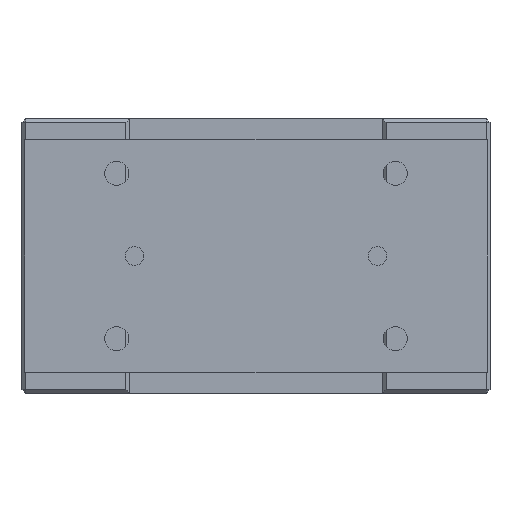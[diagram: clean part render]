
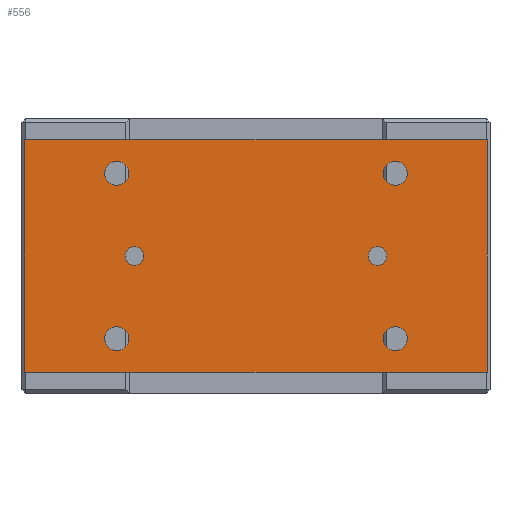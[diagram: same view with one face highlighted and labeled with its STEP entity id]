
A CAD part, left-side view. The second image highlights one B-rep face of the part: STEP entity #556.
In plain terms, the highlighted planar face has unit normal (-1, 0, 0).
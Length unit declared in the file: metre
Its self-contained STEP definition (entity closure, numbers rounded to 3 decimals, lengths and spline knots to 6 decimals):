
#556 = ADVANCED_FACE( '', ( #1275, #1276, #1277, #1278, #1279, #1280, #1281 ), #1282, .T. );
#1275 = FACE_BOUND( '', #2169, .T. );
#1276 = FACE_BOUND( '', #2170, .T. );
#1277 = FACE_BOUND( '', #2171, .T. );
#1278 = FACE_BOUND( '', #2172, .T. );
#1279 = FACE_BOUND( '', #2173, .T. );
#1280 = FACE_BOUND( '', #2174, .T. );
#1281 = FACE_OUTER_BOUND( '', #2175, .T. );
#1282 = PLANE( '', #2176 );
#2169 = EDGE_LOOP( '', ( #3567 ) );
#2170 = EDGE_LOOP( '', ( #3568 ) );
#2171 = EDGE_LOOP( '', ( #3569 ) );
#2172 = EDGE_LOOP( '', ( #3570 ) );
#2173 = EDGE_LOOP( '', ( #3571 ) );
#2174 = EDGE_LOOP( '', ( #3572 ) );
#2175 = EDGE_LOOP( '', ( #3573, #3574, #3575, #3576 ) );
#2176 = AXIS2_PLACEMENT_3D( '', #3577, #3578, #3579 );
#3567 = ORIENTED_EDGE( '', *, *, #4753, .F. );
#3568 = ORIENTED_EDGE( '', *, *, #4588, .T. );
#3569 = ORIENTED_EDGE( '', *, *, #4754, .F. );
#3570 = ORIENTED_EDGE( '', *, *, #4755, .F. );
#3571 = ORIENTED_EDGE( '', *, *, #4454, .F. );
#3572 = ORIENTED_EDGE( '', *, *, #4313, .F. );
#3573 = ORIENTED_EDGE( '', *, *, #4756, .T. );
#3574 = ORIENTED_EDGE( '', *, *, #4669, .T. );
#3575 = ORIENTED_EDGE( '', *, *, #4757, .T. );
#3576 = ORIENTED_EDGE( '', *, *, #4713, .T. );
#3577 = CARTESIAN_POINT( '', ( -0.143, -0.1245, -0.0115 ) );
#3578 = DIRECTION( '', ( -1., 0., 0. ) );
#3579 = DIRECTION( '', ( 0., 0., 1. ) );
#4313 = EDGE_CURVE( '', #4964, #4964, #4965, .T. );
#4454 = EDGE_CURVE( '', #5201, #5201, #5202, .T. );
#4588 = EDGE_CURVE( '', #5406, #5406, #5407, .T. );
#4669 = EDGE_CURVE( '', #5522, #5520, #5523, .T. );
#4713 = EDGE_CURVE( '', #5584, #5582, #5585, .T. );
#4753 = EDGE_CURVE( '', #5641, #5641, #5642, .T. );
#4754 = EDGE_CURVE( '', #5643, #5643, #5644, .T. );
#4755 = EDGE_CURVE( '', #5645, #5645, #5646, .T. );
#4756 = EDGE_CURVE( '', #5582, #5522, #5647, .T. );
#4757 = EDGE_CURVE( '', #5520, #5584, #5648, .T. );
#4964 = VERTEX_POINT( '', #5901 );
#4965 = CIRCLE( '', #5902, 0.0065 );
#5201 = VERTEX_POINT( '', #6250 );
#5202 = CIRCLE( '', #6251, 0.0065 );
#5406 = VERTEX_POINT( '', #6574 );
#5407 = CIRCLE( '', #6575, 0.005 );
#5520 = VERTEX_POINT( '', #6787 );
#5522 = VERTEX_POINT( '', #6790 );
#5523 = LINE( '', #6791, #6792 );
#5582 = VERTEX_POINT( '', #6899 );
#5584 = VERTEX_POINT( '', #6902 );
#5585 = LINE( '', #6903, #6904 );
#5641 = VERTEX_POINT( '', #6973 );
#5642 = CIRCLE( '', #6974, 0.005 );
#5643 = VERTEX_POINT( '', #6975 );
#5644 = CIRCLE( '', #6976, 0.0065 );
#5645 = VERTEX_POINT( '', #6977 );
#5646 = CIRCLE( '', #6978, 0.0065 );
#5647 = LINE( '', #6979, #6980 );
#5648 = LINE( '', #6981, #6982 );
#5901 = CARTESIAN_POINT( '', ( -0.143, 0.075, -0.023 ) );
#5902 = AXIS2_PLACEMENT_3D( '', #7329, #7330, #7331 );
#6250 = CARTESIAN_POINT( '', ( -0.143, -0.075, -0.023 ) );
#6251 = AXIS2_PLACEMENT_3D( '', #7483, #7484, #7485 );
#6574 = CARTESIAN_POINT( '', ( -0.143, 0.0705, -0.074 ) );
#6575 = AXIS2_PLACEMENT_3D( '', #7647, #7648, #7649 );
#6787 = CARTESIAN_POINT( '', ( -0.143, 0.1245, -0.0115 ) );
#6790 = CARTESIAN_POINT( '', ( -0.143, -0.1245, -0.0115 ) );
#6791 = CARTESIAN_POINT( '', ( -0.143, -0.1245, -0.0115 ) );
#6792 = VECTOR( '', #7729, 1. );
#6899 = CARTESIAN_POINT( '', ( -0.143, -0.1245, -0.1365 ) );
#6902 = CARTESIAN_POINT( '', ( -0.143, 0.1245, -0.1365 ) );
#6903 = CARTESIAN_POINT( '', ( -0.143, 0.1245, -0.1365 ) );
#6904 = VECTOR( '', #7770, 1. );
#6973 = CARTESIAN_POINT( '', ( -0.143, -0.0705, -0.074 ) );
#6974 = AXIS2_PLACEMENT_3D( '', #7817, #7818, #7819 );
#6975 = CARTESIAN_POINT( '', ( -0.143, -0.075, -0.112 ) );
#6976 = AXIS2_PLACEMENT_3D( '', #7820, #7821, #7822 );
#6977 = CARTESIAN_POINT( '', ( -0.143, 0.075, -0.112 ) );
#6978 = AXIS2_PLACEMENT_3D( '', #7823, #7824, #7825 );
#6979 = CARTESIAN_POINT( '', ( -0.143, -0.1245, -0.1365 ) );
#6980 = VECTOR( '', #7826, 1. );
#6981 = CARTESIAN_POINT( '', ( -0.143, 0.1245, -0.0115 ) );
#6982 = VECTOR( '', #7827, 1. );
#7329 = CARTESIAN_POINT( '', ( -0.143, 0.075, -0.0295 ) );
#7330 = DIRECTION( '', ( -1., 0., 0. ) );
#7331 = DIRECTION( '', ( 0., 0., 1. ) );
#7483 = CARTESIAN_POINT( '', ( -0.143, -0.075, -0.0295 ) );
#7484 = DIRECTION( '', ( -1., 0., 0. ) );
#7485 = DIRECTION( '', ( 0., 0., 1. ) );
#7647 = CARTESIAN_POINT( '', ( -0.143, 0.0655, -0.074 ) );
#7648 = DIRECTION( '', ( 1., 0., 0. ) );
#7649 = DIRECTION( '', ( 0., 1., 0. ) );
#7729 = DIRECTION( '', ( 0., 1., 0. ) );
#7770 = DIRECTION( '', ( 0., -1., 0. ) );
#7817 = CARTESIAN_POINT( '', ( -0.143, -0.0655, -0.074 ) );
#7818 = DIRECTION( '', ( -1., 0., 0. ) );
#7819 = DIRECTION( '', ( 0., -1., 0. ) );
#7820 = CARTESIAN_POINT( '', ( -0.143, -0.075, -0.1185 ) );
#7821 = DIRECTION( '', ( -1., 0., 0. ) );
#7822 = DIRECTION( '', ( 0., 0., 1. ) );
#7823 = CARTESIAN_POINT( '', ( -0.143, 0.075, -0.1185 ) );
#7824 = DIRECTION( '', ( -1., 0., 0. ) );
#7825 = DIRECTION( '', ( 0., 0., 1. ) );
#7826 = DIRECTION( '', ( 0., 0., 1. ) );
#7827 = DIRECTION( '', ( 0., 0., -1. ) );
